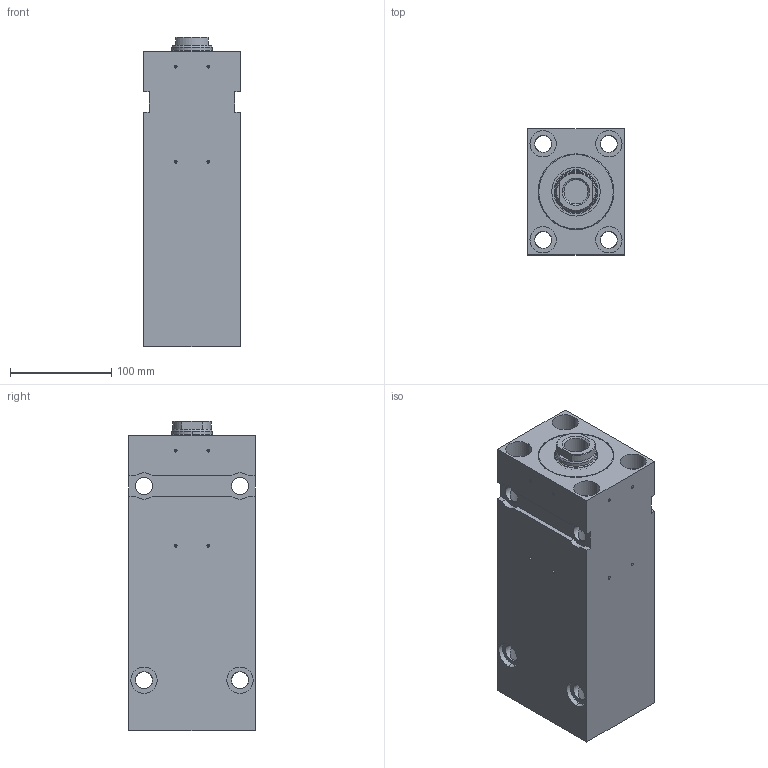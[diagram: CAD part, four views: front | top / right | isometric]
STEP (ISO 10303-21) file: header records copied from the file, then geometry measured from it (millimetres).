
FILE_DESCRIPTION (( 'STEP AP203' ), '1' );
FILE_NAME ('BZ_320.63_40.78.201.180 PP.KBC50__DH_0_.STEP', '2022-05-10T10:54:25', ( '' ), ( '' ), 'SwSTEP 2.0', 'SolidWorks 2020', '' );
FILE_SCHEMA (( 'CONFIG_CONTROL_DESIGN' ));
Length unit declared in the file: millimetre
Products named in the file (7): _Kolbenstange komplett f. BZ_RZ_FZ.63_40.xx.201.180(0_11 1 27 3 0 0 14 40 0 0 0)0^BZ_320.63_40.78.201.180 PP.KBC50__DH_0_(2)_BZ_320.63_40.78.201.180 PP.KBC50__DH_0_; _Verschraubung komplett mit Dichtung f. BZ_RZ_FZ.63_40.201, Art.-Nr._ 042987(201)^BZ_320.63_40.78.201.180 PP.KBC50__DH_0_(2)_BZ_320.63_40.78.201.180 PP.KBC50__DH_0_; _Gehaeuse f. BZ320.63_40.Fehler in IDBF.201.180Fehler in IDNT00(1350frei278000))10^BZ_320.63_40.78.201.180 PP.KBC50__DH_0_(2)_BZ_320.63_40.78.201.180 PP.KBC50__DH_0_; _Verschraubung hinten komplett mit Dichtung f. BZ500.63_40 LLL^BZ_320.63_40.78.201.180 PP.KBC50__DH_0_(2)_BZ_320.63_40.78.201.180 PP.KBC50__DH_0_; BZ_320.63_40.78.201.180 PP.KBC50__DH_0_; BZ_320.63_40.78.201.180 PP.KBC50__DH_0_(2)^BZ_320.63_40.78.201.180 PP.KBC50__DH_0_; _Dichtungssatz f. BZ_RZ_FZ.63_40.xx.201.180 Artikelnr._ 053077(0)^BZ_320.63_40.78.201.180 PP.KBC50__DH_0_(2)_BZ_320.63_40.78.201.180 PP.KBC50__DH_0_
Assembly tree (6 placements, depth 3):
  BZ_320.63_40.78.201.180 PP.KBC50__DH_0_
    BZ_320.63_40.78.201.180 PP.KBC50__DH_0_(2)^BZ_320.63_40.78.201.180 PP.KBC50__DH_0_
      _Gehaeuse f. BZ320.63_40.Fehler in IDBF.201.180Fehler in IDNT00(1350frei278000))10^BZ_320.63_40.78.201.180 PP.KBC50__DH_0_(2)_BZ_320.63_40.78.201.180 PP.KBC50__DH_0_
      _Verschraubung hinten komplett mit Dichtung f. BZ500.63_40 LLL^BZ_320.63_40.78.201.180 PP.KBC50__DH_0_(2)_BZ_320.63_40.78.201.180 PP.KBC50__DH_0_
      _Verschraubung komplett mit Dichtung f. BZ_RZ_FZ.63_40.201, Art.-Nr._ 042987(201)^BZ_320.63_40.78.201.180 PP.KBC50__DH_0_(2)_BZ_320.63_40.78.201.180 PP.KBC50__DH_0_
      _Dichtungssatz f. BZ_RZ_FZ.63_40.xx.201.180 Artikelnr._ 053077(0)^BZ_320.63_40.78.201.180 PP.KBC50__DH_0_(2)_BZ_320.63_40.78.201.180 PP.KBC50__DH_0_
      _Kolbenstange komplett f. BZ_RZ_FZ.63_40.xx.201.180(0_11 1 27 3 0 0 14 40 0 0 0)0^BZ_320.63_40.78.201.180 PP.KBC50__DH_0_(2)_BZ_320.63_40.78.201.180 PP.KBC50__DH_0_
Bounding box: 95 x 125 x 306 mm (x, y, z)
Volume: 2719974.1 mm3; surface area: 370332 mm2
Topology: 5 solids, 5 shells, 245 faces, 597 edges, 356 vertices
Faces by surface type: cylinder 150, plane 57, cone 38
Entity records: 8052 total; most frequent: CARTESIAN_POINT 1624, DIRECTION 1259, ORIENTED_EDGE 1146, EDGE_CURVE 573, AXIS2_PLACEMENT_3D 503, VERTEX_POINT 356, EDGE_LOOP 305, LINE 253
